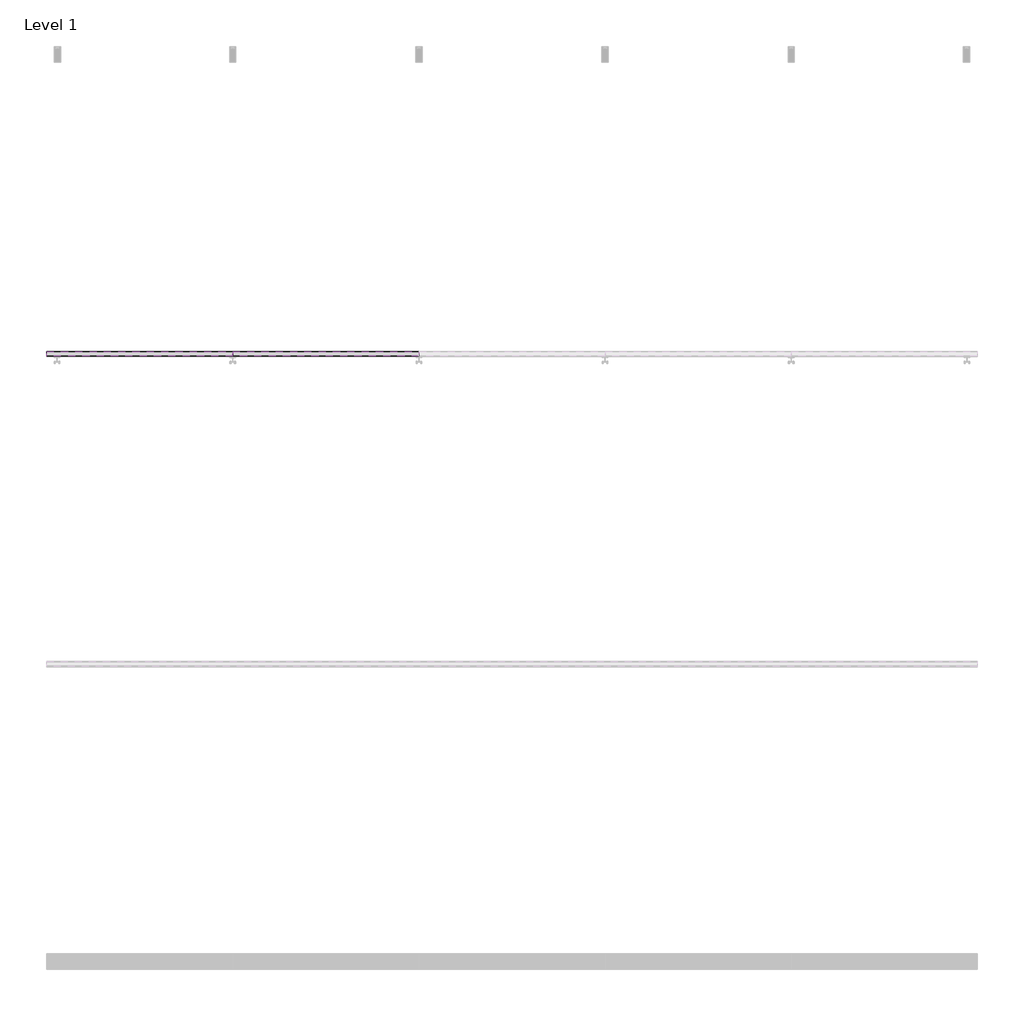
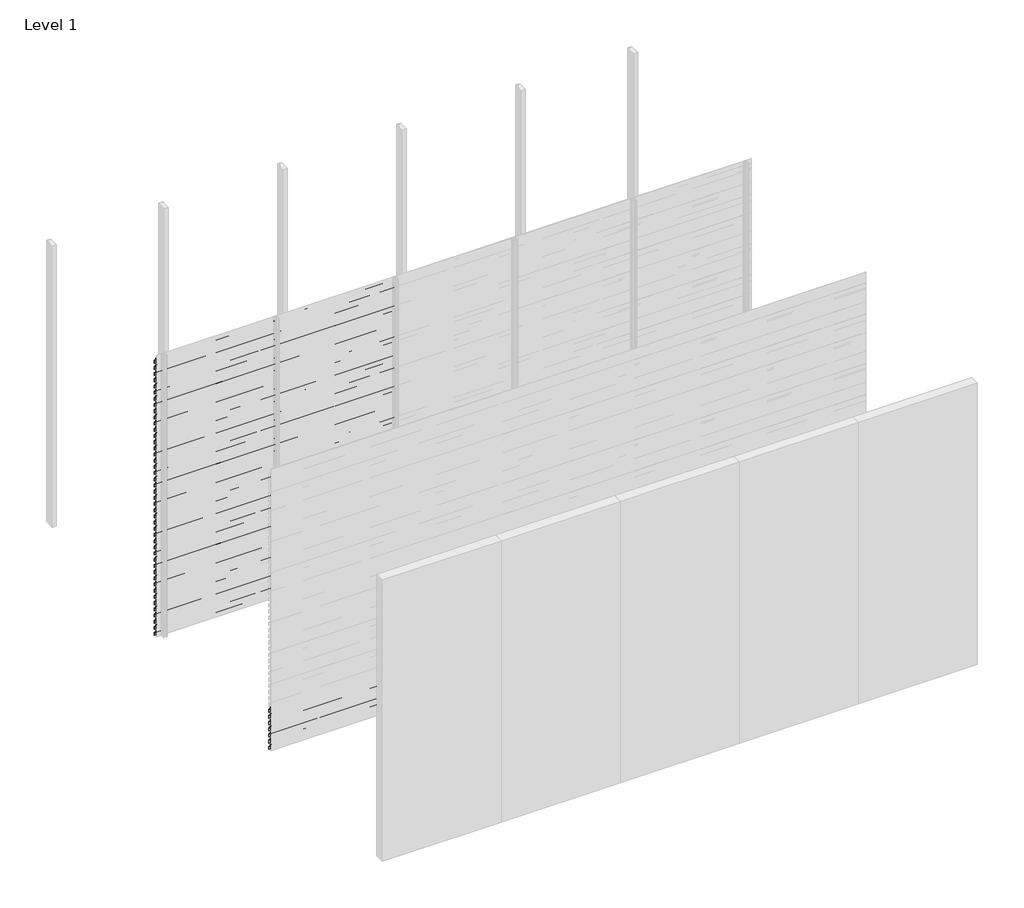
# One storey, part 10 of 33: 88 proxies.
"""IFC4 building model written with IfcOpenShell, lengths in millimetres."""

from ifc_helpers import new_model, si_unit, frame, origin, place, context, project, spatial, polyline, outline, extrude, element, save

model = new_model("IFC4")

# Units and contexts
model_context = context("Model", 3, world=origin())
ifc_project = project(units=[si_unit("LENGTHUNIT", "METRE", prefix="MILLI")], contexts=[model_context])

# Site, building, storey
site = spatial("IfcSite", under=ifc_project)
building = spatial("IfcBuilding", under=site)
storey = spatial("IfcBuildingStorey", under=building, Name="Level 1", Elevation=0.0)

# Proxies
placement = place(None, origin())
element("IfcBuildingElementProxy", 1, Name="Wall Sweeps", at=placement, inside=storey, context=model_context, shape_type="SweptSolid", body=[
    extrude(outline(polyline([(-41967.0, 2930.0), (-41967.0, 2897.0), (-41968.25, 2897.7216933), (-41968.25, 2929.2872415), (-41998.0, 2950.0588647), (-41998.0, 2970.0), (-41996.75, 2970.0), (-41996.75, 2950.7716232), (-41967.0, 2930.0)])), frame((0.0, 0.0, 0.0), z_axis=(1.0, 0.0, 0.0), x_axis=(0.0, 1.0, 0.0)), (0.0, 0.0, 1.0), 1200.0),
])
element("IfcBuildingElementProxy", 2, Name="Wall Sweeps", at=placement, inside=storey, context=model_context, shape_type="SweptSolid", body=[
    extrude(outline(polyline([(-41967.0, 2864.0), (-41967.0, 2831.0), (-41968.25, 2831.7216933), (-41968.25, 2863.2872415), (-41998.0, 2884.0588647), (-41998.0, 2904.0), (-41996.75, 2904.0), (-41996.75, 2884.7716232), (-41967.0, 2864.0)])), frame((0.0, 0.0, 0.0), z_axis=(1.0, 0.0, 0.0), x_axis=(0.0, 1.0, 0.0)), (0.0, 0.0, 1.0), 1200.0),
])
element("IfcBuildingElementProxy", 3, Name="Wall Sweeps", at=placement, inside=storey, context=model_context, shape_type="SweptSolid", body=[
    extrude(outline(polyline([(-41967.0, 2798.0), (-41967.0, 2765.0), (-41968.25, 2765.7216933), (-41968.25, 2797.2872415), (-41998.0, 2818.0588647), (-41998.0, 2838.0), (-41996.75, 2838.0), (-41996.75, 2818.7716232), (-41967.0, 2798.0)])), frame((0.0, 0.0, 0.0), z_axis=(1.0, 0.0, 0.0), x_axis=(0.0, 1.0, 0.0)), (0.0, 0.0, 1.0), 1200.0),
])
element("IfcBuildingElementProxy", 4, Name="Wall Sweeps", at=placement, inside=storey, context=model_context, shape_type="SweptSolid", body=[
    extrude(outline(polyline([(-41967.0, 2732.0), (-41967.0, 2699.0), (-41968.25, 2699.7216933), (-41968.25, 2731.2872415), (-41998.0, 2752.0588647), (-41998.0, 2772.0), (-41996.75, 2772.0), (-41996.75, 2752.7716232), (-41967.0, 2732.0)])), frame((0.0, 0.0, 0.0), z_axis=(1.0, 0.0, 0.0), x_axis=(0.0, 1.0, 0.0)), (0.0, 0.0, 1.0), 1200.0),
])
element("IfcBuildingElementProxy", 5, Name="Wall Sweeps", at=placement, inside=storey, context=model_context, shape_type="SweptSolid", body=[
    extrude(outline(polyline([(-41967.0, 2666.0), (-41967.0, 2633.0), (-41968.25, 2633.7216933), (-41968.25, 2665.2872415), (-41998.0, 2686.0588647), (-41998.0, 2706.0), (-41996.75, 2706.0), (-41996.75, 2686.7716232), (-41967.0, 2666.0)])), frame((0.0, 0.0, 0.0), z_axis=(1.0, 0.0, 0.0), x_axis=(0.0, 1.0, 0.0)), (0.0, 0.0, 1.0), 1200.0),
])
element("IfcBuildingElementProxy", 6, Name="Wall Sweeps", at=placement, inside=storey, context=model_context, shape_type="SweptSolid", body=[
    extrude(outline(polyline([(-41967.0, 2600.0), (-41967.0, 2567.0), (-41968.25, 2567.7216933), (-41968.25, 2599.2872415), (-41998.0, 2620.0588647), (-41998.0, 2640.0), (-41996.75, 2640.0), (-41996.75, 2620.7716232), (-41967.0, 2600.0)])), frame((0.0, 0.0, 0.0), z_axis=(1.0, 0.0, 0.0), x_axis=(0.0, 1.0, 0.0)), (0.0, 0.0, 1.0), 1200.0),
])
element("IfcBuildingElementProxy", 7, Name="Wall Sweeps", at=placement, inside=storey, context=model_context, shape_type="SweptSolid", body=[
    extrude(outline(polyline([(-41967.0, 2534.0), (-41967.0, 2501.0), (-41968.25, 2501.7216933), (-41968.25, 2533.2872415), (-41998.0, 2554.0588647), (-41998.0, 2574.0), (-41996.75, 2574.0), (-41996.75, 2554.7716232), (-41967.0, 2534.0)])), frame((0.0, 0.0, 0.0), z_axis=(1.0, 0.0, 0.0), x_axis=(0.0, 1.0, 0.0)), (0.0, 0.0, 1.0), 1200.0),
])
element("IfcBuildingElementProxy", 8, Name="Wall Sweeps", at=placement, inside=storey, context=model_context, shape_type="SweptSolid", body=[
    extrude(outline(polyline([(-41967.0, 2468.0), (-41967.0, 2435.0), (-41968.25, 2435.7216933), (-41968.25, 2467.2872415), (-41998.0, 2488.0588647), (-41998.0, 2508.0), (-41996.75, 2508.0), (-41996.75, 2488.7716232), (-41967.0, 2468.0)])), frame((0.0, 0.0, 0.0), z_axis=(1.0, 0.0, 0.0), x_axis=(0.0, 1.0, 0.0)), (0.0, 0.0, 1.0), 1200.0),
])
element("IfcBuildingElementProxy", 9, Name="Wall Sweeps", at=placement, inside=storey, context=model_context, shape_type="SweptSolid", body=[
    extrude(outline(polyline([(-41967.0, 2402.0), (-41967.0, 2369.0), (-41968.25, 2369.7216933), (-41968.25, 2401.2872415), (-41998.0, 2422.0588647), (-41998.0, 2442.0), (-41996.75, 2442.0), (-41996.75, 2422.7716232), (-41967.0, 2402.0)])), frame((0.0, 0.0, 0.0), z_axis=(1.0, 0.0, 0.0), x_axis=(0.0, 1.0, 0.0)), (0.0, 0.0, 1.0), 1200.0),
])
element("IfcBuildingElementProxy", 10, Name="Wall Sweeps", at=placement, inside=storey, context=model_context, shape_type="SweptSolid", body=[
    extrude(outline(polyline([(-41967.0, 2336.0), (-41967.0, 2303.0), (-41968.25, 2303.7216933), (-41968.25, 2335.2872415), (-41998.0, 2356.0588647), (-41998.0, 2376.0), (-41996.75, 2376.0), (-41996.75, 2356.7716232), (-41967.0, 2336.0)])), frame((0.0, 0.0, 0.0), z_axis=(1.0, 0.0, 0.0), x_axis=(0.0, 1.0, 0.0)), (0.0, 0.0, 1.0), 1200.0),
])
element("IfcBuildingElementProxy", 11, Name="Wall Sweeps", at=placement, inside=storey, context=model_context, shape_type="SweptSolid", body=[
    extrude(outline(polyline([(-41967.0, 2270.0), (-41967.0, 2237.0), (-41968.25, 2237.7216933), (-41968.25, 2269.2872415), (-41998.0, 2290.0588647), (-41998.0, 2310.0), (-41996.75, 2310.0), (-41996.75, 2290.7716232), (-41967.0, 2270.0)])), frame((0.0, 0.0, 0.0), z_axis=(1.0, 0.0, 0.0), x_axis=(0.0, 1.0, 0.0)), (0.0, 0.0, 1.0), 1200.0),
])
element("IfcBuildingElementProxy", 12, Name="Wall Sweeps", at=placement, inside=storey, context=model_context, shape_type="SweptSolid", body=[
    extrude(outline(polyline([(-41967.0, 2204.0), (-41967.0, 2171.0), (-41968.25, 2171.7216933), (-41968.25, 2203.2872415), (-41998.0, 2224.0588647), (-41998.0, 2244.0), (-41996.75, 2244.0), (-41996.75, 2224.7716232), (-41967.0, 2204.0)])), frame((0.0, 0.0, 0.0), z_axis=(1.0, 0.0, 0.0), x_axis=(0.0, 1.0, 0.0)), (0.0, 0.0, 1.0), 1200.0),
])
element("IfcBuildingElementProxy", 13, Name="Wall Sweeps", at=placement, inside=storey, context=model_context, shape_type="SweptSolid", body=[
    extrude(outline(polyline([(-41967.0, 2138.0), (-41967.0, 2105.0), (-41968.25, 2105.7216933), (-41968.25, 2137.2872415), (-41998.0, 2158.0588647), (-41998.0, 2178.0), (-41996.75, 2178.0), (-41996.75, 2158.7716232), (-41967.0, 2138.0)])), frame((0.0, 0.0, 0.0), z_axis=(1.0, 0.0, 0.0), x_axis=(0.0, 1.0, 0.0)), (0.0, 0.0, 1.0), 1200.0),
])
element("IfcBuildingElementProxy", 14, Name="Wall Sweeps", at=placement, inside=storey, context=model_context, shape_type="SweptSolid", body=[
    extrude(outline(polyline([(-41967.0, 2072.0), (-41967.0, 2039.0), (-41968.25, 2039.7216933), (-41968.25, 2071.2872415), (-41998.0, 2092.0588647), (-41998.0, 2112.0), (-41996.75, 2112.0), (-41996.75, 2092.7716232), (-41967.0, 2072.0)])), frame((0.0, 0.0, 0.0), z_axis=(1.0, 0.0, 0.0), x_axis=(0.0, 1.0, 0.0)), (0.0, 0.0, 1.0), 1200.0),
])
element("IfcBuildingElementProxy", 15, Name="Wall Sweeps", at=placement, inside=storey, context=model_context, shape_type="SweptSolid", body=[
    extrude(outline(polyline([(-41967.0, 2006.0), (-41967.0, 1973.0), (-41968.25, 1973.7216933), (-41968.25, 2005.2872415), (-41998.0, 2026.0588647), (-41998.0, 2046.0), (-41996.75, 2046.0), (-41996.75, 2026.7716232), (-41967.0, 2006.0)])), frame((0.0, 0.0, 0.0), z_axis=(1.0, 0.0, 0.0), x_axis=(0.0, 1.0, 0.0)), (0.0, 0.0, 1.0), 1200.0),
])
element("IfcBuildingElementProxy", 16, Name="Wall Sweeps", at=placement, inside=storey, context=model_context, shape_type="SweptSolid", body=[
    extrude(outline(polyline([(-41967.0, 1940.0), (-41967.0, 1907.0), (-41968.25, 1907.7216933), (-41968.25, 1939.2872415), (-41998.0, 1960.0588647), (-41998.0, 1980.0), (-41996.75, 1980.0), (-41996.75, 1960.7716232), (-41967.0, 1940.0)])), frame((0.0, 0.0, 0.0), z_axis=(1.0, 0.0, 0.0), x_axis=(0.0, 1.0, 0.0)), (0.0, 0.0, 1.0), 1200.0),
])
element("IfcBuildingElementProxy", 17, Name="Wall Sweeps", at=placement, inside=storey, context=model_context, shape_type="SweptSolid", body=[
    extrude(outline(polyline([(-41967.0, 1874.0), (-41967.0, 1841.0), (-41968.25, 1841.7216933), (-41968.25, 1873.2872415), (-41998.0, 1894.0588647), (-41998.0, 1914.0), (-41996.75, 1914.0), (-41996.75, 1894.7716232), (-41967.0, 1874.0)])), frame((0.0, 0.0, 0.0), z_axis=(1.0, 0.0, 0.0), x_axis=(0.0, 1.0, 0.0)), (0.0, 0.0, 1.0), 1200.0),
])
element("IfcBuildingElementProxy", 18, Name="Wall Sweeps", at=placement, inside=storey, context=model_context, shape_type="SweptSolid", body=[
    extrude(outline(polyline([(-41967.0, 1808.0), (-41967.0, 1775.0), (-41968.25, 1775.7216933), (-41968.25, 1807.2872415), (-41998.0, 1828.0588647), (-41998.0, 1848.0), (-41996.75, 1848.0), (-41996.75, 1828.7716232), (-41967.0, 1808.0)])), frame((0.0, 0.0, 0.0), z_axis=(1.0, 0.0, 0.0), x_axis=(0.0, 1.0, 0.0)), (0.0, 0.0, 1.0), 1200.0),
])
element("IfcBuildingElementProxy", 19, Name="Wall Sweeps", at=placement, inside=storey, context=model_context, shape_type="SweptSolid", body=[
    extrude(outline(polyline([(-41967.0, 1742.0), (-41967.0, 1709.0), (-41968.25, 1709.7216933), (-41968.25, 1741.2872415), (-41998.0, 1762.0588647), (-41998.0, 1782.0), (-41996.75, 1782.0), (-41996.75, 1762.7716232), (-41967.0, 1742.0)])), frame((0.0, 0.0, 0.0), z_axis=(1.0, 0.0, 0.0), x_axis=(0.0, 1.0, 0.0)), (0.0, 0.0, 1.0), 1200.0),
])
element("IfcBuildingElementProxy", 20, Name="Wall Sweeps", at=placement, inside=storey, context=model_context, shape_type="SweptSolid", body=[
    extrude(outline(polyline([(-41967.0, 1676.0), (-41967.0, 1643.0), (-41968.25, 1643.7216933), (-41968.25, 1675.2872415), (-41998.0, 1696.0588647), (-41998.0, 1716.0), (-41996.75, 1716.0), (-41996.75, 1696.7716232), (-41967.0, 1676.0)])), frame((0.0, 0.0, 0.0), z_axis=(1.0, 0.0, 0.0), x_axis=(0.0, 1.0, 0.0)), (0.0, 0.0, 1.0), 1200.0),
])
element("IfcBuildingElementProxy", 21, Name="Wall Sweeps", at=placement, inside=storey, context=model_context, shape_type="SweptSolid", body=[
    extrude(outline(polyline([(-41967.0, 1610.0), (-41967.0, 1577.0), (-41968.25, 1577.7216933), (-41968.25, 1609.2872415), (-41998.0, 1630.0588647), (-41998.0, 1650.0), (-41996.75, 1650.0), (-41996.75, 1630.7716232), (-41967.0, 1610.0)])), frame((0.0, 0.0, 0.0), z_axis=(1.0, 0.0, 0.0), x_axis=(0.0, 1.0, 0.0)), (0.0, 0.0, 1.0), 1200.0),
])
element("IfcBuildingElementProxy", 22, Name="Wall Sweeps", at=placement, inside=storey, context=model_context, shape_type="SweptSolid", body=[
    extrude(outline(polyline([(-41967.0, 1544.0), (-41967.0, 1511.0), (-41968.25, 1511.7216933), (-41968.25, 1543.2872415), (-41998.0, 1564.0588647), (-41998.0, 1584.0), (-41996.75, 1584.0), (-41996.75, 1564.7716232), (-41967.0, 1544.0)])), frame((0.0, 0.0, 0.0), z_axis=(1.0, 0.0, 0.0), x_axis=(0.0, 1.0, 0.0)), (0.0, 0.0, 1.0), 1200.0),
])
element("IfcBuildingElementProxy", 23, Name="Wall Sweeps", at=placement, inside=storey, context=model_context, shape_type="SweptSolid", body=[
    extrude(outline(polyline([(-41967.0, 1478.0), (-41967.0, 1445.0), (-41968.25, 1445.7216933), (-41968.25, 1477.2872415), (-41998.0, 1498.0588647), (-41998.0, 1518.0), (-41996.75, 1518.0), (-41996.75, 1498.7716232), (-41967.0, 1478.0)])), frame((0.0, 0.0, 0.0), z_axis=(1.0, 0.0, 0.0), x_axis=(0.0, 1.0, 0.0)), (0.0, 0.0, 1.0), 1200.0),
])
element("IfcBuildingElementProxy", 24, Name="Wall Sweeps", at=placement, inside=storey, context=model_context, shape_type="SweptSolid", body=[
    extrude(outline(polyline([(-41967.0, 1412.0), (-41967.0, 1379.0), (-41968.25, 1379.7216933), (-41968.25, 1411.2872415), (-41998.0, 1432.0588647), (-41998.0, 1452.0), (-41996.75, 1452.0), (-41996.75, 1432.7716232), (-41967.0, 1412.0)])), frame((0.0, 0.0, 0.0), z_axis=(1.0, 0.0, 0.0), x_axis=(0.0, 1.0, 0.0)), (0.0, 0.0, 1.0), 1200.0),
])
element("IfcBuildingElementProxy", 25, Name="Wall Sweeps", at=placement, inside=storey, context=model_context, shape_type="SweptSolid", body=[
    extrude(outline(polyline([(-41967.0, 1346.0), (-41967.0, 1313.0), (-41968.25, 1313.7216933), (-41968.25, 1345.2872415), (-41998.0, 1366.0588647), (-41998.0, 1386.0), (-41996.75, 1386.0), (-41996.75, 1366.7716232), (-41967.0, 1346.0)])), frame((0.0, 0.0, 0.0), z_axis=(1.0, 0.0, 0.0), x_axis=(0.0, 1.0, 0.0)), (0.0, 0.0, 1.0), 1200.0),
])
element("IfcBuildingElementProxy", 26, Name="Wall Sweeps", at=placement, inside=storey, context=model_context, shape_type="SweptSolid", body=[
    extrude(outline(polyline([(-41967.0, 1280.0), (-41967.0, 1247.0), (-41968.25, 1247.7216933), (-41968.25, 1279.2872415), (-41998.0, 1300.0588647), (-41998.0, 1320.0), (-41996.75, 1320.0), (-41996.75, 1300.7716232), (-41967.0, 1280.0)])), frame((0.0, 0.0, 0.0), z_axis=(1.0, 0.0, 0.0), x_axis=(0.0, 1.0, 0.0)), (0.0, 0.0, 1.0), 1200.0),
])
element("IfcBuildingElementProxy", 27, Name="Wall Sweeps", at=placement, inside=storey, context=model_context, shape_type="SweptSolid", body=[
    extrude(outline(polyline([(-41967.0, 1214.0), (-41967.0, 1181.0), (-41968.25, 1181.7216933), (-41968.25, 1213.2872415), (-41998.0, 1234.0588647), (-41998.0, 1254.0), (-41996.75, 1254.0), (-41996.75, 1234.7716232), (-41967.0, 1214.0)])), frame((0.0, 0.0, 0.0), z_axis=(1.0, 0.0, 0.0), x_axis=(0.0, 1.0, 0.0)), (0.0, 0.0, 1.0), 1200.0),
])
element("IfcBuildingElementProxy", 28, Name="Wall Sweeps", at=placement, inside=storey, context=model_context, shape_type="SweptSolid", body=[
    extrude(outline(polyline([(-41967.0, 1148.0), (-41967.0, 1115.0), (-41968.25, 1115.7216933), (-41968.25, 1147.2872415), (-41998.0, 1168.0588647), (-41998.0, 1188.0), (-41996.75, 1188.0), (-41996.75, 1168.7716232), (-41967.0, 1148.0)])), frame((0.0, 0.0, 0.0), z_axis=(1.0, 0.0, 0.0), x_axis=(0.0, 1.0, 0.0)), (0.0, 0.0, 1.0), 1200.0),
])
element("IfcBuildingElementProxy", 29, Name="Wall Sweeps", at=placement, inside=storey, context=model_context, shape_type="SweptSolid", body=[
    extrude(outline(polyline([(-41967.0, 1082.0), (-41967.0, 1049.0), (-41968.25, 1049.7216933), (-41968.25, 1081.2872415), (-41998.0, 1102.0588647), (-41998.0, 1122.0), (-41996.75, 1122.0), (-41996.75, 1102.7716232), (-41967.0, 1082.0)])), frame((0.0, 0.0, 0.0), z_axis=(1.0, 0.0, 0.0), x_axis=(0.0, 1.0, 0.0)), (0.0, 0.0, 1.0), 1200.0),
])
element("IfcBuildingElementProxy", 30, Name="Wall Sweeps", at=placement, inside=storey, context=model_context, shape_type="SweptSolid", body=[
    extrude(outline(polyline([(-41967.0, 1016.0), (-41967.0, 983.0), (-41968.25, 983.7216933), (-41968.25, 1015.2872415), (-41998.0, 1036.0588647), (-41998.0, 1056.0), (-41996.75, 1056.0), (-41996.75, 1036.7716232), (-41967.0, 1016.0)])), frame((0.0, 0.0, 0.0), z_axis=(1.0, 0.0, 0.0), x_axis=(0.0, 1.0, 0.0)), (0.0, 0.0, 1.0), 1200.0),
])
element("IfcBuildingElementProxy", 31, Name="Wall Sweeps", at=placement, inside=storey, context=model_context, shape_type="SweptSolid", body=[
    extrude(outline(polyline([(-41967.0, 950.0), (-41967.0, 917.0), (-41968.25, 917.7216933), (-41968.25, 949.2872415), (-41998.0, 970.0588647), (-41998.0, 990.0), (-41996.75, 990.0), (-41996.75, 970.7716232), (-41967.0, 950.0)])), frame((0.0, 0.0, 0.0), z_axis=(1.0, 0.0, 0.0), x_axis=(0.0, 1.0, 0.0)), (0.0, 0.0, 1.0), 1200.0),
])
element("IfcBuildingElementProxy", 32, Name="Wall Sweeps", at=placement, inside=storey, context=model_context, shape_type="SweptSolid", body=[
    extrude(outline(polyline([(-41967.0, 884.0), (-41967.0, 851.0), (-41968.25, 851.7216933), (-41968.25, 883.2872415), (-41998.0, 904.0588647), (-41998.0, 924.0), (-41996.75, 924.0), (-41996.75, 904.7716232), (-41967.0, 884.0)])), frame((0.0, 0.0, 0.0), z_axis=(1.0, 0.0, 0.0), x_axis=(0.0, 1.0, 0.0)), (0.0, 0.0, 1.0), 1200.0),
])
element("IfcBuildingElementProxy", 33, Name="Wall Sweeps", at=placement, inside=storey, context=model_context, shape_type="SweptSolid", body=[
    extrude(outline(polyline([(-41967.0, 818.0), (-41967.0, 785.0), (-41968.25, 785.7216933), (-41968.25, 817.2872415), (-41998.0, 838.0588647), (-41998.0, 858.0), (-41996.75, 858.0), (-41996.75, 838.7716232), (-41967.0, 818.0)])), frame((0.0, 0.0, 0.0), z_axis=(1.0, 0.0, 0.0), x_axis=(0.0, 1.0, 0.0)), (0.0, 0.0, 1.0), 1200.0),
])
element("IfcBuildingElementProxy", 34, Name="Wall Sweeps", at=placement, inside=storey, context=model_context, shape_type="SweptSolid", body=[
    extrude(outline(polyline([(-41967.0, 752.0), (-41967.0, 719.0), (-41968.25, 719.7216933), (-41968.25, 751.2872415), (-41998.0, 772.0588647), (-41998.0, 792.0), (-41996.75, 792.0), (-41996.75, 772.7716232), (-41967.0, 752.0)])), frame((0.0, 0.0, 0.0), z_axis=(1.0, 0.0, 0.0), x_axis=(0.0, 1.0, 0.0)), (0.0, 0.0, 1.0), 1200.0),
])
element("IfcBuildingElementProxy", 35, Name="Wall Sweeps", at=placement, inside=storey, context=model_context, shape_type="SweptSolid", body=[
    extrude(outline(polyline([(-41967.0, 686.0), (-41967.0, 653.0), (-41968.25, 653.7216933), (-41968.25, 685.2872415), (-41998.0, 706.0588647), (-41998.0, 726.0), (-41996.75, 726.0), (-41996.75, 706.7716232), (-41967.0, 686.0)])), frame((0.0, 0.0, 0.0), z_axis=(1.0, 0.0, 0.0), x_axis=(0.0, 1.0, 0.0)), (0.0, 0.0, 1.0), 1200.0),
])
element("IfcBuildingElementProxy", 36, Name="Wall Sweeps", at=placement, inside=storey, context=model_context, shape_type="SweptSolid", body=[
    extrude(outline(polyline([(-41967.0, 620.0), (-41967.0, 587.0), (-41968.25, 587.7216933), (-41968.25, 619.2872415), (-41998.0, 640.0588647), (-41998.0, 660.0), (-41996.75, 660.0), (-41996.75, 640.7716232), (-41967.0, 620.0)])), frame((0.0, 0.0, 0.0), z_axis=(1.0, 0.0, 0.0), x_axis=(0.0, 1.0, 0.0)), (0.0, 0.0, 1.0), 1200.0),
])
element("IfcBuildingElementProxy", 37, Name="Wall Sweeps", at=placement, inside=storey, context=model_context, shape_type="SweptSolid", body=[
    extrude(outline(polyline([(-41967.0, 554.0), (-41967.0, 521.0), (-41968.25, 521.7216933), (-41968.25, 553.2872415), (-41998.0, 574.0588647), (-41998.0, 594.0), (-41996.75, 594.0), (-41996.75, 574.7716232), (-41967.0, 554.0)])), frame((0.0, 0.0, 0.0), z_axis=(1.0, 0.0, 0.0), x_axis=(0.0, 1.0, 0.0)), (0.0, 0.0, 1.0), 1200.0),
])
element("IfcBuildingElementProxy", 38, Name="Wall Sweeps", at=placement, inside=storey, context=model_context, shape_type="SweptSolid", body=[
    extrude(outline(polyline([(-41967.0, 488.0), (-41967.0, 455.0), (-41968.25, 455.7216933), (-41968.25, 487.2872415), (-41998.0, 508.0588647), (-41998.0, 528.0), (-41996.75, 528.0), (-41996.75, 508.7716232), (-41967.0, 488.0)])), frame((0.0, 0.0, 0.0), z_axis=(1.0, 0.0, 0.0), x_axis=(0.0, 1.0, 0.0)), (0.0, 0.0, 1.0), 1200.0),
])
element("IfcBuildingElementProxy", 39, Name="Wall Sweeps", at=placement, inside=storey, context=model_context, shape_type="SweptSolid", body=[
    extrude(outline(polyline([(-41967.0, 422.0), (-41967.0, 389.0), (-41968.25, 389.7216933), (-41968.25, 421.2872415), (-41998.0, 442.0588647), (-41998.0, 462.0), (-41996.75, 462.0), (-41996.75, 442.7716232), (-41967.0, 422.0)])), frame((0.0, 0.0, 0.0), z_axis=(1.0, 0.0, 0.0), x_axis=(0.0, 1.0, 0.0)), (0.0, 0.0, 1.0), 1200.0),
])
element("IfcBuildingElementProxy", 40, Name="Wall Sweeps", at=placement, inside=storey, context=model_context, shape_type="SweptSolid", body=[
    extrude(outline(polyline([(-41967.0, 356.0), (-41967.0, 323.0), (-41968.25, 323.7216933), (-41968.25, 355.2872415), (-41998.0, 376.0588647), (-41998.0, 396.0), (-41996.75, 396.0), (-41996.75, 376.7716232), (-41967.0, 356.0)])), frame((0.0, 0.0, 0.0), z_axis=(1.0, 0.0, 0.0), x_axis=(0.0, 1.0, 0.0)), (0.0, 0.0, 1.0), 1200.0),
])
element("IfcBuildingElementProxy", 41, Name="Wall Sweeps", at=placement, inside=storey, context=model_context, shape_type="SweptSolid", body=[
    extrude(outline(polyline([(-41967.0, 290.0), (-41967.0, 257.0), (-41968.25, 257.7216933), (-41968.25, 289.2872415), (-41998.0, 310.0588647), (-41998.0, 330.0), (-41996.75, 330.0), (-41996.75, 310.7716232), (-41967.0, 290.0)])), frame((0.0, 0.0, 0.0), z_axis=(1.0, 0.0, 0.0), x_axis=(0.0, 1.0, 0.0)), (0.0, 0.0, 1.0), 1200.0),
])
element("IfcBuildingElementProxy", 42, Name="Wall Sweeps", at=placement, inside=storey, context=model_context, shape_type="SweptSolid", body=[
    extrude(outline(polyline([(-41967.0, 224.0), (-41967.0, 191.0), (-41968.25, 191.7216933), (-41968.25, 223.2872415), (-41998.0, 244.0588647), (-41998.0, 264.0), (-41996.75, 264.0), (-41996.75, 244.7716232), (-41967.0, 224.0)])), frame((0.0, 0.0, 0.0), z_axis=(1.0, 0.0, 0.0), x_axis=(0.0, 1.0, 0.0)), (0.0, 0.0, 1.0), 1200.0),
])
element("IfcBuildingElementProxy", 43, Name="Wall Sweeps", at=placement, inside=storey, context=model_context, shape_type="SweptSolid", body=[
    extrude(outline(polyline([(-41967.0, 158.0), (-41967.0, 125.0), (-41968.25, 125.7216933), (-41968.25, 157.2872415), (-41998.0, 178.0588647), (-41998.0, 198.0), (-41996.75, 198.0), (-41996.75, 178.7716232), (-41967.0, 158.0)])), frame((0.0, 0.0, 0.0), z_axis=(1.0, 0.0, 0.0), x_axis=(0.0, 1.0, 0.0)), (0.0, 0.0, 1.0), 1200.0),
])
element("IfcBuildingElementProxy", 44, Name="Wall Sweeps", at=placement, inside=storey, context=model_context, shape_type="SweptSolid", body=[
    extrude(outline(polyline([(-41967.0, 92.0), (-41967.0, 59.0), (-41968.25, 59.7216933), (-41968.25, 91.2872415), (-41998.0, 112.0588647), (-41998.0, 132.0), (-41996.75, 132.0), (-41996.75, 112.7716232), (-41967.0, 92.0)])), frame((0.0, 0.0, 0.0), z_axis=(1.0, 0.0, 0.0), x_axis=(0.0, 1.0, 0.0)), (0.0, 0.0, 1.0), 1200.0),
])
element("IfcBuildingElementProxy", 45, Name="Wall Sweeps", at=placement, inside=storey, context=model_context, shape_type="SweptSolid", body=[
    extrude(outline(polyline([(-41967.0, 26.0), (-41967.0, -7.0), (-41968.25, -6.2783067), (-41968.25, 25.2872415), (-41998.0, 46.0588647), (-41998.0, 66.0), (-41996.75, 66.0), (-41996.75, 46.7716232), (-41967.0, 26.0)])), frame((0.0, 0.0, 0.0), z_axis=(1.0, 0.0, 0.0), x_axis=(0.0, 1.0, 0.0)), (0.0, 0.0, 1.0), 1200.0),
])
element("IfcBuildingElementProxy", 46, Name="Wall Sweeps", at=placement, inside=storey, context=model_context, shape_type="SweptSolid", body=[
    extrude(outline(polyline([(-41967.0, 2930.0), (-41967.0, 2897.0), (-41968.25, 2897.7216933), (-41968.25, 2929.2872415), (-41998.0, 2950.0588647), (-41998.0, 2970.0), (-41996.75, 2970.0), (-41996.75, 2950.7716232), (-41967.0, 2930.0)])), frame((1200.0, 0.0, 0.0), z_axis=(1.0, 0.0, 0.0), x_axis=(0.0, 1.0, 0.0)), (0.0, 0.0, 1.0), 1200.0),
])
element("IfcBuildingElementProxy", 47, Name="Wall Sweeps", at=placement, inside=storey, context=model_context, shape_type="SweptSolid", body=[
    extrude(outline(polyline([(-41967.0, 2864.0), (-41967.0, 2831.0), (-41968.25, 2831.7216933), (-41968.25, 2863.2872415), (-41998.0, 2884.0588647), (-41998.0, 2904.0), (-41996.75, 2904.0), (-41996.75, 2884.7716232), (-41967.0, 2864.0)])), frame((1200.0, 0.0, 0.0), z_axis=(1.0, 0.0, 0.0), x_axis=(0.0, 1.0, 0.0)), (0.0, 0.0, 1.0), 1200.0),
])
element("IfcBuildingElementProxy", 48, Name="Wall Sweeps", at=placement, inside=storey, context=model_context, shape_type="SweptSolid", body=[
    extrude(outline(polyline([(-41967.0, 2798.0), (-41967.0, 2765.0), (-41968.25, 2765.7216933), (-41968.25, 2797.2872415), (-41998.0, 2818.0588647), (-41998.0, 2838.0), (-41996.75, 2838.0), (-41996.75, 2818.7716232), (-41967.0, 2798.0)])), frame((1200.0, 0.0, 0.0), z_axis=(1.0, 0.0, 0.0), x_axis=(0.0, 1.0, 0.0)), (0.0, 0.0, 1.0), 1200.0),
])
element("IfcBuildingElementProxy", 49, Name="Wall Sweeps", at=placement, inside=storey, context=model_context, shape_type="SweptSolid", body=[
    extrude(outline(polyline([(-41967.0, 2732.0), (-41967.0, 2699.0), (-41968.25, 2699.7216933), (-41968.25, 2731.2872415), (-41998.0, 2752.0588647), (-41998.0, 2772.0), (-41996.75, 2772.0), (-41996.75, 2752.7716232), (-41967.0, 2732.0)])), frame((1200.0, 0.0, 0.0), z_axis=(1.0, 0.0, 0.0), x_axis=(0.0, 1.0, 0.0)), (0.0, 0.0, 1.0), 1200.0),
])
element("IfcBuildingElementProxy", 50, Name="Wall Sweeps", at=placement, inside=storey, context=model_context, shape_type="SweptSolid", body=[
    extrude(outline(polyline([(-41967.0, 2666.0), (-41967.0, 2633.0), (-41968.25, 2633.7216933), (-41968.25, 2665.2872415), (-41998.0, 2686.0588647), (-41998.0, 2706.0), (-41996.75, 2706.0), (-41996.75, 2686.7716232), (-41967.0, 2666.0)])), frame((1200.0, 0.0, 0.0), z_axis=(1.0, 0.0, 0.0), x_axis=(0.0, 1.0, 0.0)), (0.0, 0.0, 1.0), 1200.0),
])
element("IfcBuildingElementProxy", 51, Name="Wall Sweeps", at=placement, inside=storey, context=model_context, shape_type="SweptSolid", body=[
    extrude(outline(polyline([(-41967.0, 2600.0), (-41967.0, 2567.0), (-41968.25, 2567.7216933), (-41968.25, 2599.2872415), (-41998.0, 2620.0588647), (-41998.0, 2640.0), (-41996.75, 2640.0), (-41996.75, 2620.7716232), (-41967.0, 2600.0)])), frame((1200.0, 0.0, 0.0), z_axis=(1.0, 0.0, 0.0), x_axis=(0.0, 1.0, 0.0)), (0.0, 0.0, 1.0), 1200.0),
])
element("IfcBuildingElementProxy", 52, Name="Wall Sweeps", at=placement, inside=storey, context=model_context, shape_type="SweptSolid", body=[
    extrude(outline(polyline([(-41967.0, 2534.0), (-41967.0, 2501.0), (-41968.25, 2501.7216933), (-41968.25, 2533.2872415), (-41998.0, 2554.0588647), (-41998.0, 2574.0), (-41996.75, 2574.0), (-41996.75, 2554.7716232), (-41967.0, 2534.0)])), frame((1200.0, 0.0, 0.0), z_axis=(1.0, 0.0, 0.0), x_axis=(0.0, 1.0, 0.0)), (0.0, 0.0, 1.0), 1200.0),
])
element("IfcBuildingElementProxy", 53, Name="Wall Sweeps", at=placement, inside=storey, context=model_context, shape_type="SweptSolid", body=[
    extrude(outline(polyline([(-41967.0, 2468.0), (-41967.0, 2435.0), (-41968.25, 2435.7216933), (-41968.25, 2467.2872415), (-41998.0, 2488.0588647), (-41998.0, 2508.0), (-41996.75, 2508.0), (-41996.75, 2488.7716232), (-41967.0, 2468.0)])), frame((1200.0, 0.0, 0.0), z_axis=(1.0, 0.0, 0.0), x_axis=(0.0, 1.0, 0.0)), (0.0, 0.0, 1.0), 1200.0),
])
element("IfcBuildingElementProxy", 54, Name="Wall Sweeps", at=placement, inside=storey, context=model_context, shape_type="SweptSolid", body=[
    extrude(outline(polyline([(-41967.0, 2402.0), (-41967.0, 2369.0), (-41968.25, 2369.7216933), (-41968.25, 2401.2872415), (-41998.0, 2422.0588647), (-41998.0, 2442.0), (-41996.75, 2442.0), (-41996.75, 2422.7716232), (-41967.0, 2402.0)])), frame((1200.0, 0.0, 0.0), z_axis=(1.0, 0.0, 0.0), x_axis=(0.0, 1.0, 0.0)), (0.0, 0.0, 1.0), 1200.0),
])
element("IfcBuildingElementProxy", 55, Name="Wall Sweeps", at=placement, inside=storey, context=model_context, shape_type="SweptSolid", body=[
    extrude(outline(polyline([(-41967.0, 2336.0), (-41967.0, 2303.0), (-41968.25, 2303.7216933), (-41968.25, 2335.2872415), (-41998.0, 2356.0588647), (-41998.0, 2376.0), (-41996.75, 2376.0), (-41996.75, 2356.7716232), (-41967.0, 2336.0)])), frame((1200.0, 0.0, 0.0), z_axis=(1.0, 0.0, 0.0), x_axis=(0.0, 1.0, 0.0)), (0.0, 0.0, 1.0), 1200.0),
])
element("IfcBuildingElementProxy", 56, Name="Wall Sweeps", at=placement, inside=storey, context=model_context, shape_type="SweptSolid", body=[
    extrude(outline(polyline([(-41967.0, 2270.0), (-41967.0, 2237.0), (-41968.25, 2237.7216933), (-41968.25, 2269.2872415), (-41998.0, 2290.0588647), (-41998.0, 2310.0), (-41996.75, 2310.0), (-41996.75, 2290.7716232), (-41967.0, 2270.0)])), frame((1200.0, 0.0, 0.0), z_axis=(1.0, 0.0, 0.0), x_axis=(0.0, 1.0, 0.0)), (0.0, 0.0, 1.0), 1200.0),
])
element("IfcBuildingElementProxy", 57, Name="Wall Sweeps", at=placement, inside=storey, context=model_context, shape_type="SweptSolid", body=[
    extrude(outline(polyline([(-41967.0, 2204.0), (-41967.0, 2171.0), (-41968.25, 2171.7216933), (-41968.25, 2203.2872415), (-41998.0, 2224.0588647), (-41998.0, 2244.0), (-41996.75, 2244.0), (-41996.75, 2224.7716232), (-41967.0, 2204.0)])), frame((1200.0, 0.0, 0.0), z_axis=(1.0, 0.0, 0.0), x_axis=(0.0, 1.0, 0.0)), (0.0, 0.0, 1.0), 1200.0),
])
element("IfcBuildingElementProxy", 58, Name="Wall Sweeps", at=placement, inside=storey, context=model_context, shape_type="SweptSolid", body=[
    extrude(outline(polyline([(-41967.0, 2138.0), (-41967.0, 2105.0), (-41968.25, 2105.7216933), (-41968.25, 2137.2872415), (-41998.0, 2158.0588647), (-41998.0, 2178.0), (-41996.75, 2178.0), (-41996.75, 2158.7716232), (-41967.0, 2138.0)])), frame((1200.0, 0.0, 0.0), z_axis=(1.0, 0.0, 0.0), x_axis=(0.0, 1.0, 0.0)), (0.0, 0.0, 1.0), 1200.0),
])
element("IfcBuildingElementProxy", 59, Name="Wall Sweeps", at=placement, inside=storey, context=model_context, shape_type="SweptSolid", body=[
    extrude(outline(polyline([(-41967.0, 2072.0), (-41967.0, 2039.0), (-41968.25, 2039.7216933), (-41968.25, 2071.2872415), (-41998.0, 2092.0588647), (-41998.0, 2112.0), (-41996.75, 2112.0), (-41996.75, 2092.7716232), (-41967.0, 2072.0)])), frame((1200.0, 0.0, 0.0), z_axis=(1.0, 0.0, 0.0), x_axis=(0.0, 1.0, 0.0)), (0.0, 0.0, 1.0), 1200.0),
])
element("IfcBuildingElementProxy", 60, Name="Wall Sweeps", at=placement, inside=storey, context=model_context, shape_type="SweptSolid", body=[
    extrude(outline(polyline([(-41967.0, 2006.0), (-41967.0, 1973.0), (-41968.25, 1973.7216933), (-41968.25, 2005.2872415), (-41998.0, 2026.0588647), (-41998.0, 2046.0), (-41996.75, 2046.0), (-41996.75, 2026.7716232), (-41967.0, 2006.0)])), frame((1200.0, 0.0, 0.0), z_axis=(1.0, 0.0, 0.0), x_axis=(0.0, 1.0, 0.0)), (0.0, 0.0, 1.0), 1200.0),
])
element("IfcBuildingElementProxy", 61, Name="Wall Sweeps", at=placement, inside=storey, context=model_context, shape_type="SweptSolid", body=[
    extrude(outline(polyline([(-41967.0, 1940.0), (-41967.0, 1907.0), (-41968.25, 1907.7216933), (-41968.25, 1939.2872415), (-41998.0, 1960.0588647), (-41998.0, 1980.0), (-41996.75, 1980.0), (-41996.75, 1960.7716232), (-41967.0, 1940.0)])), frame((1200.0, 0.0, 0.0), z_axis=(1.0, 0.0, 0.0), x_axis=(0.0, 1.0, 0.0)), (0.0, 0.0, 1.0), 1200.0),
])
element("IfcBuildingElementProxy", 62, Name="Wall Sweeps", at=placement, inside=storey, context=model_context, shape_type="SweptSolid", body=[
    extrude(outline(polyline([(-41967.0, 1874.0), (-41967.0, 1841.0), (-41968.25, 1841.7216933), (-41968.25, 1873.2872415), (-41998.0, 1894.0588647), (-41998.0, 1914.0), (-41996.75, 1914.0), (-41996.75, 1894.7716232), (-41967.0, 1874.0)])), frame((1200.0, 0.0, 0.0), z_axis=(1.0, 0.0, 0.0), x_axis=(0.0, 1.0, 0.0)), (0.0, 0.0, 1.0), 1200.0),
])
element("IfcBuildingElementProxy", 63, Name="Wall Sweeps", at=placement, inside=storey, context=model_context, shape_type="SweptSolid", body=[
    extrude(outline(polyline([(-41967.0, 1808.0), (-41967.0, 1775.0), (-41968.25, 1775.7216933), (-41968.25, 1807.2872415), (-41998.0, 1828.0588647), (-41998.0, 1848.0), (-41996.75, 1848.0), (-41996.75, 1828.7716232), (-41967.0, 1808.0)])), frame((1200.0, 0.0, 0.0), z_axis=(1.0, 0.0, 0.0), x_axis=(0.0, 1.0, 0.0)), (0.0, 0.0, 1.0), 1200.0),
])
element("IfcBuildingElementProxy", 64, Name="Wall Sweeps", at=placement, inside=storey, context=model_context, shape_type="SweptSolid", body=[
    extrude(outline(polyline([(-41967.0, 1742.0), (-41967.0, 1709.0), (-41968.25, 1709.7216933), (-41968.25, 1741.2872415), (-41998.0, 1762.0588647), (-41998.0, 1782.0), (-41996.75, 1782.0), (-41996.75, 1762.7716232), (-41967.0, 1742.0)])), frame((1200.0, 0.0, 0.0), z_axis=(1.0, 0.0, 0.0), x_axis=(0.0, 1.0, 0.0)), (0.0, 0.0, 1.0), 1200.0),
])
element("IfcBuildingElementProxy", 65, Name="Wall Sweeps", at=placement, inside=storey, context=model_context, shape_type="SweptSolid", body=[
    extrude(outline(polyline([(-41967.0, 1676.0), (-41967.0, 1643.0), (-41968.25, 1643.7216933), (-41968.25, 1675.2872415), (-41998.0, 1696.0588647), (-41998.0, 1716.0), (-41996.75, 1716.0), (-41996.75, 1696.7716232), (-41967.0, 1676.0)])), frame((1200.0, 0.0, 0.0), z_axis=(1.0, 0.0, 0.0), x_axis=(0.0, 1.0, 0.0)), (0.0, 0.0, 1.0), 1200.0),
])
element("IfcBuildingElementProxy", 66, Name="Wall Sweeps", at=placement, inside=storey, context=model_context, shape_type="SweptSolid", body=[
    extrude(outline(polyline([(-41967.0, 1610.0), (-41967.0, 1577.0), (-41968.25, 1577.7216933), (-41968.25, 1609.2872415), (-41998.0, 1630.0588647), (-41998.0, 1650.0), (-41996.75, 1650.0), (-41996.75, 1630.7716232), (-41967.0, 1610.0)])), frame((1200.0, 0.0, 0.0), z_axis=(1.0, 0.0, 0.0), x_axis=(0.0, 1.0, 0.0)), (0.0, 0.0, 1.0), 1200.0),
])
element("IfcBuildingElementProxy", 67, Name="Wall Sweeps", at=placement, inside=storey, context=model_context, shape_type="SweptSolid", body=[
    extrude(outline(polyline([(-41967.0, 1544.0), (-41967.0, 1511.0), (-41968.25, 1511.7216933), (-41968.25, 1543.2872415), (-41998.0, 1564.0588647), (-41998.0, 1584.0), (-41996.75, 1584.0), (-41996.75, 1564.7716232), (-41967.0, 1544.0)])), frame((1200.0, 0.0, 0.0), z_axis=(1.0, 0.0, 0.0), x_axis=(0.0, 1.0, 0.0)), (0.0, 0.0, 1.0), 1200.0),
])
element("IfcBuildingElementProxy", 68, Name="Wall Sweeps", at=placement, inside=storey, context=model_context, shape_type="SweptSolid", body=[
    extrude(outline(polyline([(-41967.0, 1478.0), (-41967.0, 1445.0), (-41968.25, 1445.7216933), (-41968.25, 1477.2872415), (-41998.0, 1498.0588647), (-41998.0, 1518.0), (-41996.75, 1518.0), (-41996.75, 1498.7716232), (-41967.0, 1478.0)])), frame((1200.0, 0.0, 0.0), z_axis=(1.0, 0.0, 0.0), x_axis=(0.0, 1.0, 0.0)), (0.0, 0.0, 1.0), 1200.0),
])
element("IfcBuildingElementProxy", 69, Name="Wall Sweeps", at=placement, inside=storey, context=model_context, shape_type="SweptSolid", body=[
    extrude(outline(polyline([(-41967.0, 1412.0), (-41967.0, 1379.0), (-41968.25, 1379.7216933), (-41968.25, 1411.2872415), (-41998.0, 1432.0588647), (-41998.0, 1452.0), (-41996.75, 1452.0), (-41996.75, 1432.7716232), (-41967.0, 1412.0)])), frame((1200.0, 0.0, 0.0), z_axis=(1.0, 0.0, 0.0), x_axis=(0.0, 1.0, 0.0)), (0.0, 0.0, 1.0), 1200.0),
])
element("IfcBuildingElementProxy", 70, Name="Wall Sweeps", at=placement, inside=storey, context=model_context, shape_type="SweptSolid", body=[
    extrude(outline(polyline([(-41967.0, 1346.0), (-41967.0, 1313.0), (-41968.25, 1313.7216933), (-41968.25, 1345.2872415), (-41998.0, 1366.0588647), (-41998.0, 1386.0), (-41996.75, 1386.0), (-41996.75, 1366.7716232), (-41967.0, 1346.0)])), frame((1200.0, 0.0, 0.0), z_axis=(1.0, 0.0, 0.0), x_axis=(0.0, 1.0, 0.0)), (0.0, 0.0, 1.0), 1200.0),
])
element("IfcBuildingElementProxy", 71, Name="Wall Sweeps", at=placement, inside=storey, context=model_context, shape_type="SweptSolid", body=[
    extrude(outline(polyline([(-41967.0, 1280.0), (-41967.0, 1247.0), (-41968.25, 1247.7216933), (-41968.25, 1279.2872415), (-41998.0, 1300.0588647), (-41998.0, 1320.0), (-41996.75, 1320.0), (-41996.75, 1300.7716232), (-41967.0, 1280.0)])), frame((1200.0, 0.0, 0.0), z_axis=(1.0, 0.0, 0.0), x_axis=(0.0, 1.0, 0.0)), (0.0, 0.0, 1.0), 1200.0),
])
element("IfcBuildingElementProxy", 72, Name="Wall Sweeps", at=placement, inside=storey, context=model_context, shape_type="SweptSolid", body=[
    extrude(outline(polyline([(-41967.0, 1214.0), (-41967.0, 1181.0), (-41968.25, 1181.7216933), (-41968.25, 1213.2872415), (-41998.0, 1234.0588647), (-41998.0, 1254.0), (-41996.75, 1254.0), (-41996.75, 1234.7716232), (-41967.0, 1214.0)])), frame((1200.0, 0.0, 0.0), z_axis=(1.0, 0.0, 0.0), x_axis=(0.0, 1.0, 0.0)), (0.0, 0.0, 1.0), 1200.0),
])
element("IfcBuildingElementProxy", 73, Name="Wall Sweeps", at=placement, inside=storey, context=model_context, shape_type="SweptSolid", body=[
    extrude(outline(polyline([(-41967.0, 1148.0), (-41967.0, 1115.0), (-41968.25, 1115.7216933), (-41968.25, 1147.2872415), (-41998.0, 1168.0588647), (-41998.0, 1188.0), (-41996.75, 1188.0), (-41996.75, 1168.7716232), (-41967.0, 1148.0)])), frame((1200.0, 0.0, 0.0), z_axis=(1.0, 0.0, 0.0), x_axis=(0.0, 1.0, 0.0)), (0.0, 0.0, 1.0), 1200.0),
])
element("IfcBuildingElementProxy", 74, Name="Wall Sweeps", at=placement, inside=storey, context=model_context, shape_type="SweptSolid", body=[
    extrude(outline(polyline([(-41967.0, 1082.0), (-41967.0, 1049.0), (-41968.25, 1049.7216933), (-41968.25, 1081.2872415), (-41998.0, 1102.0588647), (-41998.0, 1122.0), (-41996.75, 1122.0), (-41996.75, 1102.7716232), (-41967.0, 1082.0)])), frame((1200.0, 0.0, 0.0), z_axis=(1.0, 0.0, 0.0), x_axis=(0.0, 1.0, 0.0)), (0.0, 0.0, 1.0), 1200.0),
])
element("IfcBuildingElementProxy", 75, Name="Wall Sweeps", at=placement, inside=storey, context=model_context, shape_type="SweptSolid", body=[
    extrude(outline(polyline([(-41967.0, 1016.0), (-41967.0, 983.0), (-41968.25, 983.7216933), (-41968.25, 1015.2872415), (-41998.0, 1036.0588647), (-41998.0, 1056.0), (-41996.75, 1056.0), (-41996.75, 1036.7716232), (-41967.0, 1016.0)])), frame((1200.0, 0.0, 0.0), z_axis=(1.0, 0.0, 0.0), x_axis=(0.0, 1.0, 0.0)), (0.0, 0.0, 1.0), 1200.0),
])
element("IfcBuildingElementProxy", 76, Name="Wall Sweeps", at=placement, inside=storey, context=model_context, shape_type="SweptSolid", body=[
    extrude(outline(polyline([(-41967.0, 950.0), (-41967.0, 917.0), (-41968.25, 917.7216933), (-41968.25, 949.2872415), (-41998.0, 970.0588647), (-41998.0, 990.0), (-41996.75, 990.0), (-41996.75, 970.7716232), (-41967.0, 950.0)])), frame((1200.0, 0.0, 0.0), z_axis=(1.0, 0.0, 0.0), x_axis=(0.0, 1.0, 0.0)), (0.0, 0.0, 1.0), 1200.0),
])
element("IfcBuildingElementProxy", 77, Name="Wall Sweeps", at=placement, inside=storey, context=model_context, shape_type="SweptSolid", body=[
    extrude(outline(polyline([(-41967.0, 884.0), (-41967.0, 851.0), (-41968.25, 851.7216933), (-41968.25, 883.2872415), (-41998.0, 904.0588647), (-41998.0, 924.0), (-41996.75, 924.0), (-41996.75, 904.7716232), (-41967.0, 884.0)])), frame((1200.0, 0.0, 0.0), z_axis=(1.0, 0.0, 0.0), x_axis=(0.0, 1.0, 0.0)), (0.0, 0.0, 1.0), 1200.0),
])
element("IfcBuildingElementProxy", 78, Name="Wall Sweeps", at=placement, inside=storey, context=model_context, shape_type="SweptSolid", body=[
    extrude(outline(polyline([(-41967.0, 818.0), (-41967.0, 785.0), (-41968.25, 785.7216933), (-41968.25, 817.2872415), (-41998.0, 838.0588647), (-41998.0, 858.0), (-41996.75, 858.0), (-41996.75, 838.7716232), (-41967.0, 818.0)])), frame((1200.0, 0.0, 0.0), z_axis=(1.0, 0.0, 0.0), x_axis=(0.0, 1.0, 0.0)), (0.0, 0.0, 1.0), 1200.0),
])
element("IfcBuildingElementProxy", 79, Name="Wall Sweeps", at=placement, inside=storey, context=model_context, shape_type="SweptSolid", body=[
    extrude(outline(polyline([(-41967.0, 752.0), (-41967.0, 719.0), (-41968.25, 719.7216933), (-41968.25, 751.2872415), (-41998.0, 772.0588647), (-41998.0, 792.0), (-41996.75, 792.0), (-41996.75, 772.7716232), (-41967.0, 752.0)])), frame((1200.0, 0.0, 0.0), z_axis=(1.0, 0.0, 0.0), x_axis=(0.0, 1.0, 0.0)), (0.0, 0.0, 1.0), 1200.0),
])
element("IfcBuildingElementProxy", 80, Name="Wall Sweeps", at=placement, inside=storey, context=model_context, shape_type="SweptSolid", body=[
    extrude(outline(polyline([(-41967.0, 686.0), (-41967.0, 653.0), (-41968.25, 653.7216933), (-41968.25, 685.2872415), (-41998.0, 706.0588647), (-41998.0, 726.0), (-41996.75, 726.0), (-41996.75, 706.7716232), (-41967.0, 686.0)])), frame((1200.0, 0.0, 0.0), z_axis=(1.0, 0.0, 0.0), x_axis=(0.0, 1.0, 0.0)), (0.0, 0.0, 1.0), 1200.0),
])
element("IfcBuildingElementProxy", 81, Name="Wall Sweeps", at=placement, inside=storey, context=model_context, shape_type="SweptSolid", body=[
    extrude(outline(polyline([(-41967.0, 620.0), (-41967.0, 587.0), (-41968.25, 587.7216933), (-41968.25, 619.2872415), (-41998.0, 640.0588647), (-41998.0, 660.0), (-41996.75, 660.0), (-41996.75, 640.7716232), (-41967.0, 620.0)])), frame((1200.0, 0.0, 0.0), z_axis=(1.0, 0.0, 0.0), x_axis=(0.0, 1.0, 0.0)), (0.0, 0.0, 1.0), 1200.0),
])
element("IfcBuildingElementProxy", 82, Name="Wall Sweeps", at=placement, inside=storey, context=model_context, shape_type="SweptSolid", body=[
    extrude(outline(polyline([(-43967.0, 422.0), (-43967.0, 389.0), (-43968.25, 389.7216933), (-43968.25, 421.2872415), (-43998.0, 442.0588647), (-43998.0, 462.0), (-43996.75, 462.0), (-43996.75, 442.7716232), (-43967.0, 422.0)])), frame((0.0, 0.0, 0.0), z_axis=(1.0, 0.0, 0.0), x_axis=(0.0, 1.0, 0.0)), (0.0, 0.0, 1.0), 6000.0),
])
element("IfcBuildingElementProxy", 83, Name="Wall Sweeps", at=placement, inside=storey, context=model_context, shape_type="SweptSolid", body=[
    extrude(outline(polyline([(-43967.0, 356.0), (-43967.0, 323.0), (-43968.25, 323.7216933), (-43968.25, 355.2872415), (-43998.0, 376.0588647), (-43998.0, 396.0), (-43996.75, 396.0), (-43996.75, 376.7716232), (-43967.0, 356.0)])), frame((0.0, 0.0, 0.0), z_axis=(1.0, 0.0, 0.0), x_axis=(0.0, 1.0, 0.0)), (0.0, 0.0, 1.0), 6000.0),
])
element("IfcBuildingElementProxy", 84, Name="Wall Sweeps", at=placement, inside=storey, context=model_context, shape_type="SweptSolid", body=[
    extrude(outline(polyline([(-43967.0, 290.0), (-43967.0, 257.0), (-43968.25, 257.7216933), (-43968.25, 289.2872415), (-43998.0, 310.0588647), (-43998.0, 330.0), (-43996.75, 330.0), (-43996.75, 310.7716232), (-43967.0, 290.0)])), frame((0.0, 0.0, 0.0), z_axis=(1.0, 0.0, 0.0), x_axis=(0.0, 1.0, 0.0)), (0.0, 0.0, 1.0), 6000.0),
])
element("IfcBuildingElementProxy", 85, Name="Wall Sweeps", at=placement, inside=storey, context=model_context, shape_type="SweptSolid", body=[
    extrude(outline(polyline([(-43967.0, 224.0), (-43967.0, 191.0), (-43968.25, 191.7216933), (-43968.25, 223.2872415), (-43998.0, 244.0588647), (-43998.0, 264.0), (-43996.75, 264.0), (-43996.75, 244.7716232), (-43967.0, 224.0)])), frame((0.0, 0.0, 0.0), z_axis=(1.0, 0.0, 0.0), x_axis=(0.0, 1.0, 0.0)), (0.0, 0.0, 1.0), 6000.0),
])
element("IfcBuildingElementProxy", 86, Name="Wall Sweeps", at=placement, inside=storey, context=model_context, shape_type="SweptSolid", body=[
    extrude(outline(polyline([(-43967.0, 158.0), (-43967.0, 125.0), (-43968.25, 125.7216933), (-43968.25, 157.2872415), (-43998.0, 178.0588647), (-43998.0, 198.0), (-43996.75, 198.0), (-43996.75, 178.7716232), (-43967.0, 158.0)])), frame((0.0, 0.0, 0.0), z_axis=(1.0, 0.0, 0.0), x_axis=(0.0, 1.0, 0.0)), (0.0, 0.0, 1.0), 6000.0),
])
element("IfcBuildingElementProxy", 87, Name="Wall Sweeps", at=placement, inside=storey, context=model_context, shape_type="SweptSolid", body=[
    extrude(outline(polyline([(-43967.0, 92.0), (-43967.0, 59.0), (-43968.25, 59.7216933), (-43968.25, 91.2872415), (-43998.0, 112.0588647), (-43998.0, 132.0), (-43996.75, 132.0), (-43996.75, 112.7716232), (-43967.0, 92.0)])), frame((0.0, 0.0, 0.0), z_axis=(1.0, 0.0, 0.0), x_axis=(0.0, 1.0, 0.0)), (0.0, 0.0, 1.0), 6000.0),
])
element("IfcBuildingElementProxy", 88, Name="Wall Sweeps", at=placement, inside=storey, context=model_context, shape_type="SweptSolid", body=[
    extrude(outline(polyline([(-43967.0, 26.0), (-43967.0, -7.0), (-43968.25, -6.2783067), (-43968.25, 25.2872415), (-43998.0, 46.0588647), (-43998.0, 66.0), (-43996.75, 66.0), (-43996.75, 46.7716232), (-43967.0, 26.0)])), frame((0.0, 0.0, 0.0), z_axis=(1.0, 0.0, 0.0), x_axis=(0.0, 1.0, 0.0)), (0.0, 0.0, 1.0), 6000.0),
])

save(model, "model.ifc")
